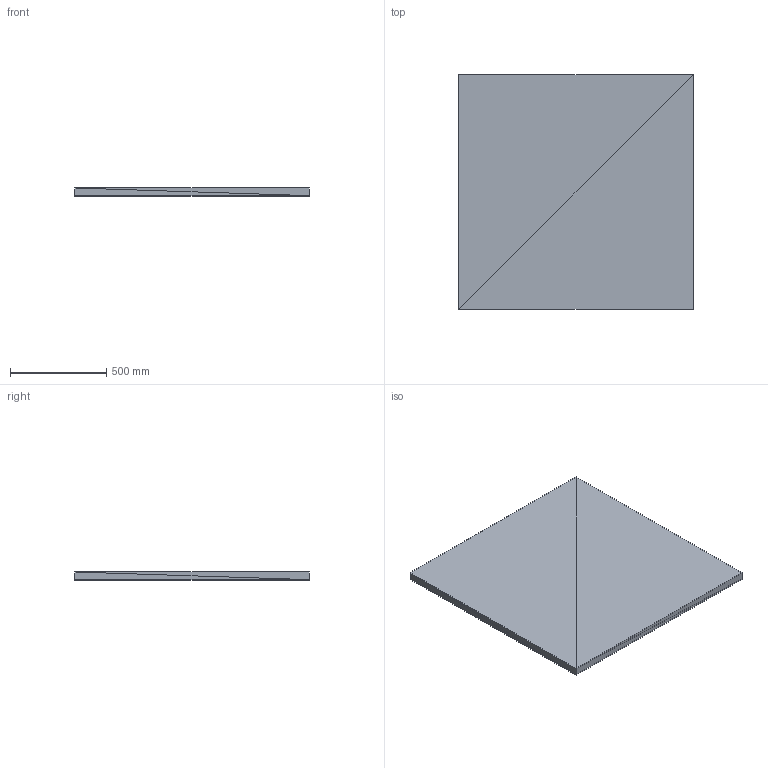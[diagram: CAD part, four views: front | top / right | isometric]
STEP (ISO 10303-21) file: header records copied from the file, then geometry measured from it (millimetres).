
FILE_DESCRIPTION(('ISINAC STEP AP214'),'2;1');
FILE_NAME('ISINAC_C.1220_40mm_IMANTADA','2026-05-03T10:49:19',('ISINAC'),('www.isinac.com'),'ISINAC BIM Generator 1.0','','');
FILE_SCHEMA(('AUTOMOTIVE_DESIGN'));
Length unit declared in the file: millimetre
Products named in the file (1): ISINAC_C.1220_40mm_IMANTADA
Bounding box: 1220 x 1220 x 42 mm (x, y, z)
Surface area: 6158560 mm2 (no closed solid volume)
Topology: 0 solids, 24 shells, 24 faces, 72 edges, 72 vertices
Faces by surface type: plane 24
Entity records: 277 total; most frequent: CARTESIAN_POINT 96, DIRECTION 48, POLY_LOOP 24, FACE_OUTER_BOUND 24, AXIS2_PLACEMENT_3D 24, PLANE 24, FACE_SURFACE 24, CLOSED_SHELL 1
